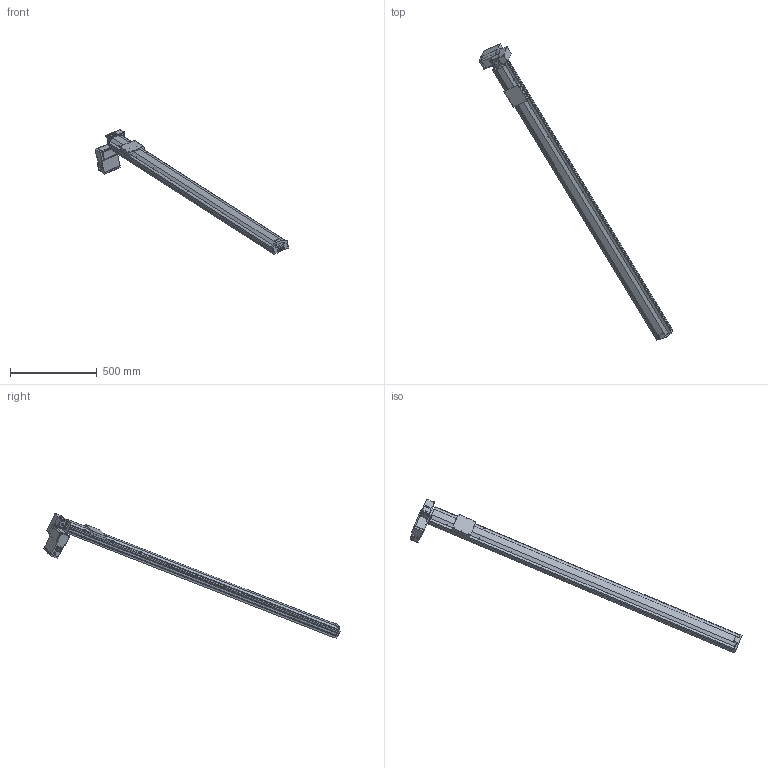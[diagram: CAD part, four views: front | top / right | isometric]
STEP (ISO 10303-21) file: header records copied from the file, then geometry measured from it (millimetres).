
FILE_DESCRIPTION (( 'STEP AP203' ), '1' );
FILE_NAME ('S10 CBH LU S1900.STEP', '2012-10-01T07:03:17', ( '' ), ( '' ), 'SwSTEP 2.0', 'SolidWorks 2010', '' );
FILE_SCHEMA (( 'CONFIG_CONTROL_DESIGN' ));
Length unit declared in the file: millimetre
Products named in the file (14): vis M5 L12_Default; plaque de bout s10_Default; Vis M5 L16-2_Default_1; Cvis M5 L30_Default; axe 1900; S10 CBH LU S1900; cache t皻e axe_Default; cache t皻e_Default; Plaque racord_Default; renvoi LH_Default; vis M5 L5_Default; embout; palette tbh; MOTEUR GMI 61 
Assembly tree (24 placements, depth 2):
  S10 CBH LU S1900
    Plaque racord_Default
    embout
    axe 1900
    Vis M5 L16-2_Default_1  x4
    vis M5 L12_Default  x4
    vis M5 L5_Default  x4
    cache t皻e_Default  x2
    cache t皻e axe_Default
    palette tbh
    Cvis M5 L30_Default  x2
    plaque de bout s10_Default
    renvoi LH_Default
    MOTEUR GMI 61 
Bounding box: 1111.63 x 1702.89 x 718.64 mm (x, y, z)
Volume: 11024915.9 mm3; surface area: 1109841.5 mm2
Topology: 24 solids, 24 shells, 1093 faces, 2662 edges, 1650 vertices
Faces by surface type: plane 542, cylinder 402, cone 102, bspline 40, torus 7
Entity records: 27595 total; most frequent: CARTESIAN_POINT 5152, DIRECTION 4441, ORIENTED_EDGE 4140, EDGE_CURVE 2070, AXIS2_PLACEMENT_3D 1581, VERTEX_POINT 1338, VECTOR 1279, LINE 1279
